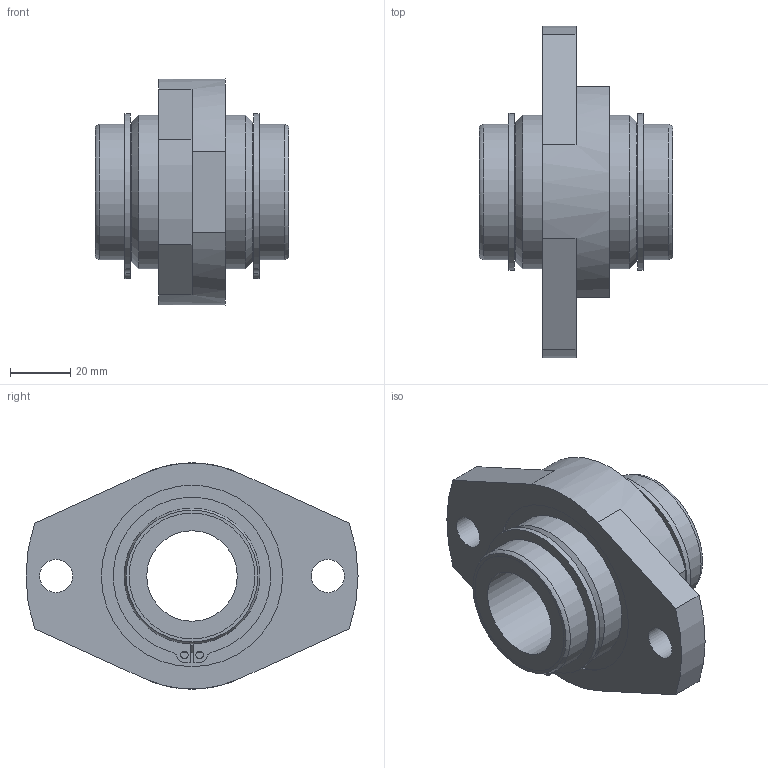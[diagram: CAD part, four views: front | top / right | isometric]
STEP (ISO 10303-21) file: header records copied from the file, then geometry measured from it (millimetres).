
FILE_DESCRIPTION((''),'2;1');
FILE_NAME('D:\製品 (図面)\カタログ用3D\シャフトブロック\PF\PF30.stp','2010-01-28T16:30:08',('Tsuchiya'),(''),'Autodesk Inventor 10','Autodesk Inventor 10','');
FILE_SCHEMA(('AUTOMOTIVE_DESIGN { 1 0 10303 214 1 1 1 1 }'));
Length unit declared in the file: millimetre
Products named in the file (1): PF30
Bounding box: 64 x 110 x 75 mm (x, y, z)
Volume: 141323.9 mm3; surface area: 34469.8 mm2
Topology: 1 solids, 2 shells, 79 faces, 187 edges, 123 vertices
Faces by surface type: plane 28, cylinder 26, bspline 17, sphere 3, cone 3, torus 2
Full cylindrical faces by diameter (mm): 2.5 x2, 30 x1, 41.7 x2, 43 x2, 45 x4, 51 x2
Entity records: 2386 total; most frequent: CARTESIAN_POINT 591, DIRECTION 384, ORIENTED_EDGE 318, AXIS2_PLACEMENT_3D 162, EDGE_CURVE 159, EDGE_LOOP 130, VERTEX_POINT 119, CIRCLE 99
